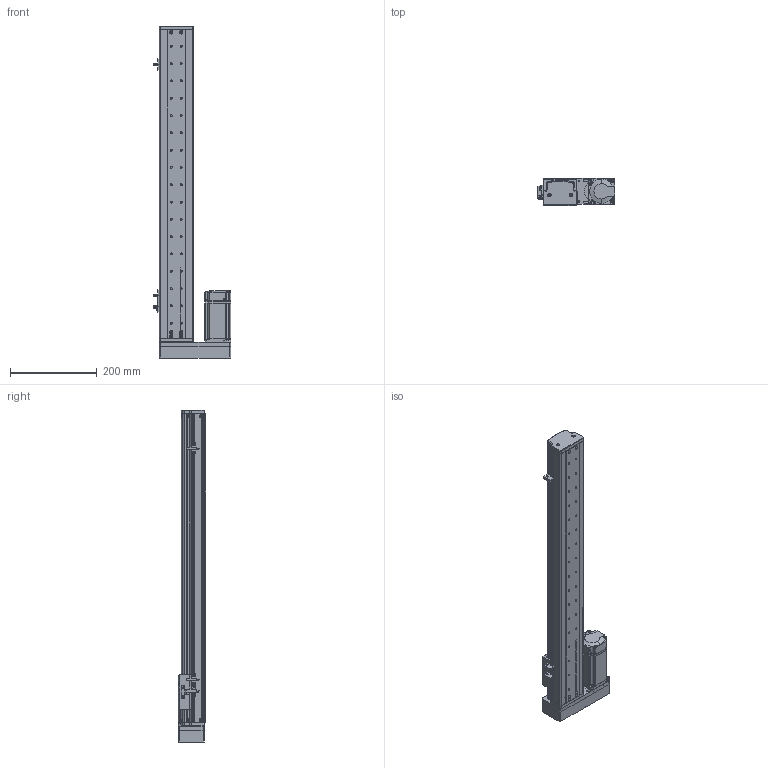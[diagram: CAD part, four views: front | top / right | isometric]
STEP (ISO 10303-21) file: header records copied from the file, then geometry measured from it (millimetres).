
FILE_DESCRIPTION (( 'STEP AP214' ), '1' );
FILE_NAME ('KSD75S-S560-ML-CM.STEP', '2019-10-18T07:01:33', ( '微软用户' ), ( '微软中国' ), 'SwSTEP 2.0', 'SolidWorks 2014', '' );
FILE_SCHEMA (( 'AUTOMOTIVE_DESIGN' ));
Length unit declared in the file: millimetre
Products named in the file (13): 75遵賑雄釱; MGW15H賑寢560俴最 ; 560俴最; KSD75S-S560-ML-CM; MHMD042G1CA_2_03; 75宽模组保护罩左右折; 75宽马达安装板连板左右折丝杆; 覜茼え100遵圉猾敕; U倰嫖萇EEㄜSX672; 綴傷啣 ; ヶ傷啣; 75裔啣-560俴最; 75遵耀郪耜啣-560俴最
Assembly tree (15 placements, depth 3):
  KSD75S-S560-ML-CM
    MGW15H賑寢560俴最 
      560俴最
    75遵賑雄釱
    75遵耀郪耜啣-560俴最  x2
    75裔啣-560俴最
    ヶ傷啣
    綴傷啣 
    U倰嫖萇EEㄜSX672  x3
    覜茼え100遵圉猾敕
    75宽马达安装板连板左右折丝杆
    75宽模组保护罩左右折
    MHMD042G1CA_2_03
Bounding box: 178.7 x 63 x 767.5 mm (x, y, z)
Volume: 984198.6 mm3; surface area: 619941.4 mm2
Topology: 13 solids, 14 shells, 1503 faces, 4234 edges, 2765 vertices
Faces by surface type: cylinder 723, plane 633, cone 129, bspline 18
Entity records: 48150 total; most frequent: CARTESIAN_POINT 9118, DIRECTION 7244, ORIENTED_EDGE 6748, EDGE_CURVE 3445, AXIS2_PLACEMENT_3D 2670, VERTEX_POINT 2283, LINE 1904, VECTOR 1904
